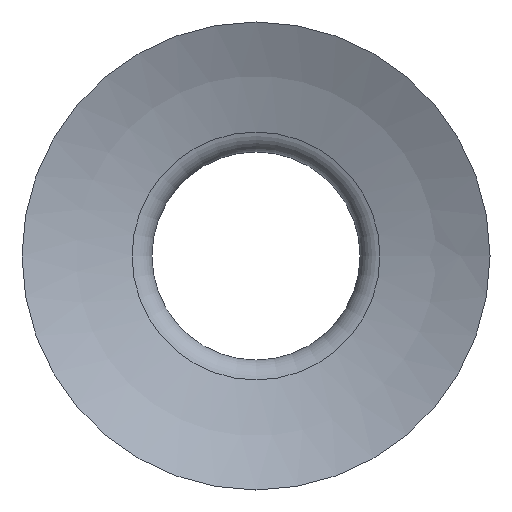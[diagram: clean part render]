
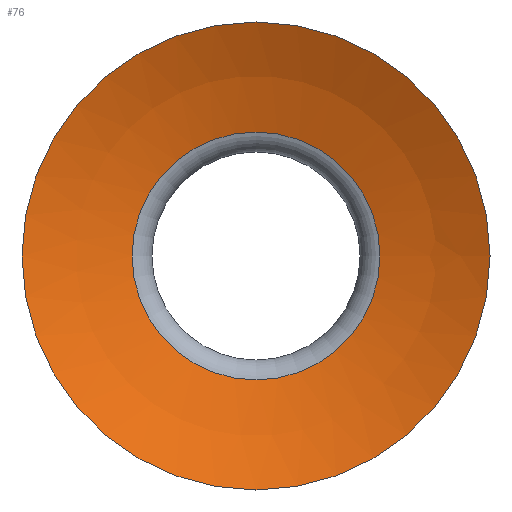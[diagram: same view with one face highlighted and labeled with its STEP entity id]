
A CAD part, front view. The second image highlights one B-rep face of the part: STEP entity #76.
In plain terms, the highlighted spherical face has radius 10.203 mm.
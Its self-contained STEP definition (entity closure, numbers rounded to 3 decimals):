
#76=ADVANCED_FACE('',(#109,#110),#111,.F.);
#109=FACE_OUTER_BOUND('',#199,.T.);
#110=FACE_OUTER_BOUND('',#200,.T.);
#111=SPHERICAL_SURFACE('',#201,10.203);
#199=EDGE_LOOP('',(#291));
#200=EDGE_LOOP('',(#292));
#201=AXIS2_PLACEMENT_3D('',#293,#294,#295);
#291=ORIENTED_EDGE('',*,*,#438,.T.);
#292=ORIENTED_EDGE('',*,*,#436,.F.);
#293=CARTESIAN_POINT('',(0.,-9.157,0.));
#294=DIRECTION('',(0.0,-1.0,0.));
#295=DIRECTION('',(1.0,0.0,0.0));
#436=EDGE_CURVE('',#466,#466,#467,.T.);
#438=EDGE_CURVE('',#470,#470,#471,.T.);
#466=VERTEX_POINT('',#526);
#467=CIRCLE('',#527,2.383);
#470=VERTEX_POINT('',#530);
#471=CIRCLE('',#531,4.5);
#526=CARTESIAN_POINT('',(2.383,0.764,0.0));
#527=AXIS2_PLACEMENT_3D('',#586,#587,#588);
#530=CARTESIAN_POINT('',(4.5,0.,0.0));
#531=AXIS2_PLACEMENT_3D('',#592,#593,#594);
#586=CARTESIAN_POINT('',(0.0,0.764,0.0));
#587=DIRECTION('',(0.0,-1.0,0.));
#588=DIRECTION('',(0.0,0.,-1.0));
#592=CARTESIAN_POINT('',(0.0,0.,0.0));
#593=DIRECTION('',(0.0,-1.0,0.));
#594=DIRECTION('',(0.0,0.,-1.0));
